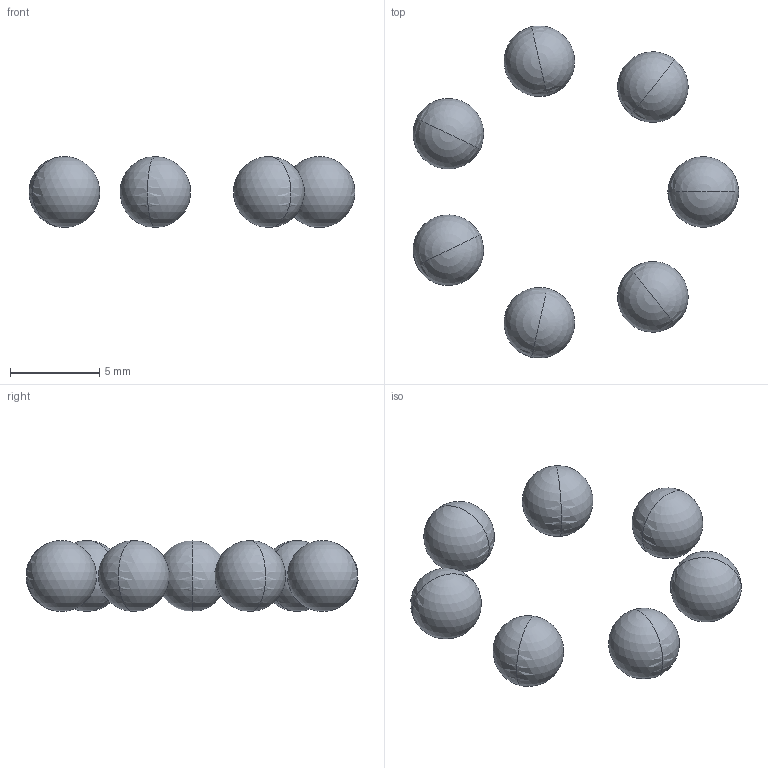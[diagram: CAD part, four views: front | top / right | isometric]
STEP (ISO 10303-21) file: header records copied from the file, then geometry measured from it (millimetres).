
FILE_DESCRIPTION(('BendCAD export'),'2;1');
FILE_NAME('bendcad.step','',('BendCAD'),('BendCAD'),'BendCAD','BendCAD','');
FILE_SCHEMA(('AUTOMOTIVE_DESIGN'));
Length unit declared in the file: millimetre
Products named in the file (1): BENDCAD
Bounding box: 18.21 x 18.56 x 3.97 mm (x, y, z)
Volume: 229.2 mm3; surface area: 346.4 mm2
Topology: 7 solids, 7 shells, 14 faces, 56 edges, 28 vertices
Faces by surface type: sphere 14
Entity records: 366 total; most frequent: CARTESIAN_POINT 127, ORIENTED_EDGE 56, DIRECTION 30, VERTEX_POINT 28, EDGE_CURVE 28, AXIS2_PLACEMENT_3D 15, SPHERICAL_SURFACE 14, EDGE_LOOP 14
